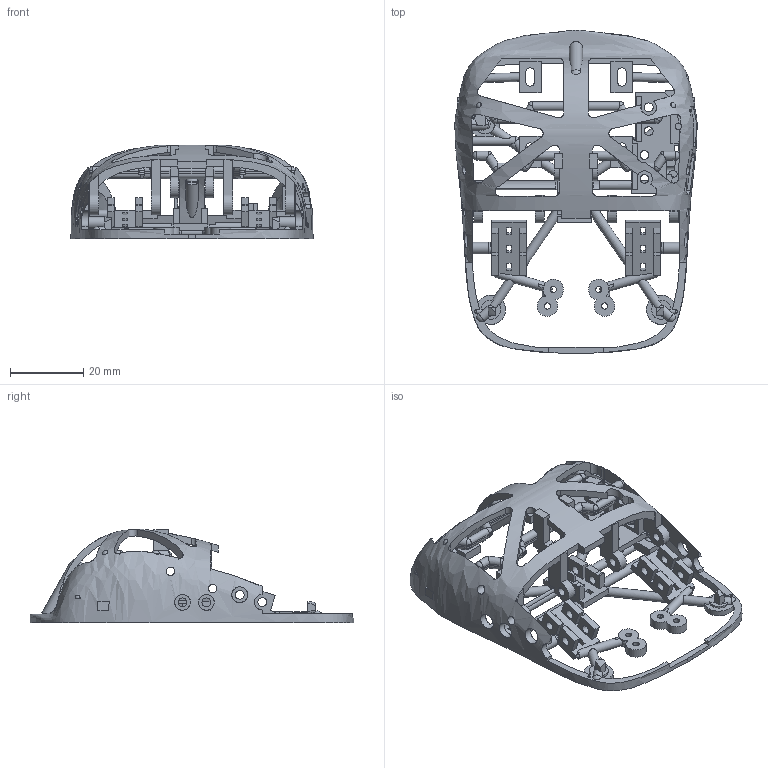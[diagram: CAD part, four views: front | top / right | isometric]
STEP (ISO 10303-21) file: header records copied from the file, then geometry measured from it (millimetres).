
FILE_DESCRIPTION(('Open CASCADE Model'),'2;1');
FILE_NAME('Open CASCADE Shape Model','2026-10-17T16:42:33',('Author'),( 'Open CASCADE'),'Open CASCADE STEP processor 7.9','Open CASCADE 7.9' ,'Unknown');
FILE_SCHEMA(('AUTOMOTIVE_DESIGN { 1 0 10303 214 1 1 1 1 }'));
Products named in the file (1): Open CASCADE STEP translator 7.9 1
Bounding box: 66.07 x 88.24 x 25.47 mm (x, y, z)
Volume: 13757.4 mm3; surface area: 18798.9 mm2
Topology: 1 solids, 1 shells, 1095 faces, 3260 edges, 2098 vertices
Faces by surface type: plane 702, cylinder 283, sphere 90, bspline 20
Full cylindrical faces by diameter (mm): 1.7 x4, 1.72 x1, 2.35 x10, 2.4 x22, 2.5 x3, 2.6 x9, 3.2 x2, 4.3 x3, 5.2 x2
Entity records: 303434 total; most frequent: CARTESIAN_POINT 244182, DIRECTION 9848, ORIENTED_EDGE 6448, PCURVE 6448, DEFINITIONAL_REPRESENTATION 6448, LINE 5550, VECTOR 5550, EDGE_CURVE 3224
